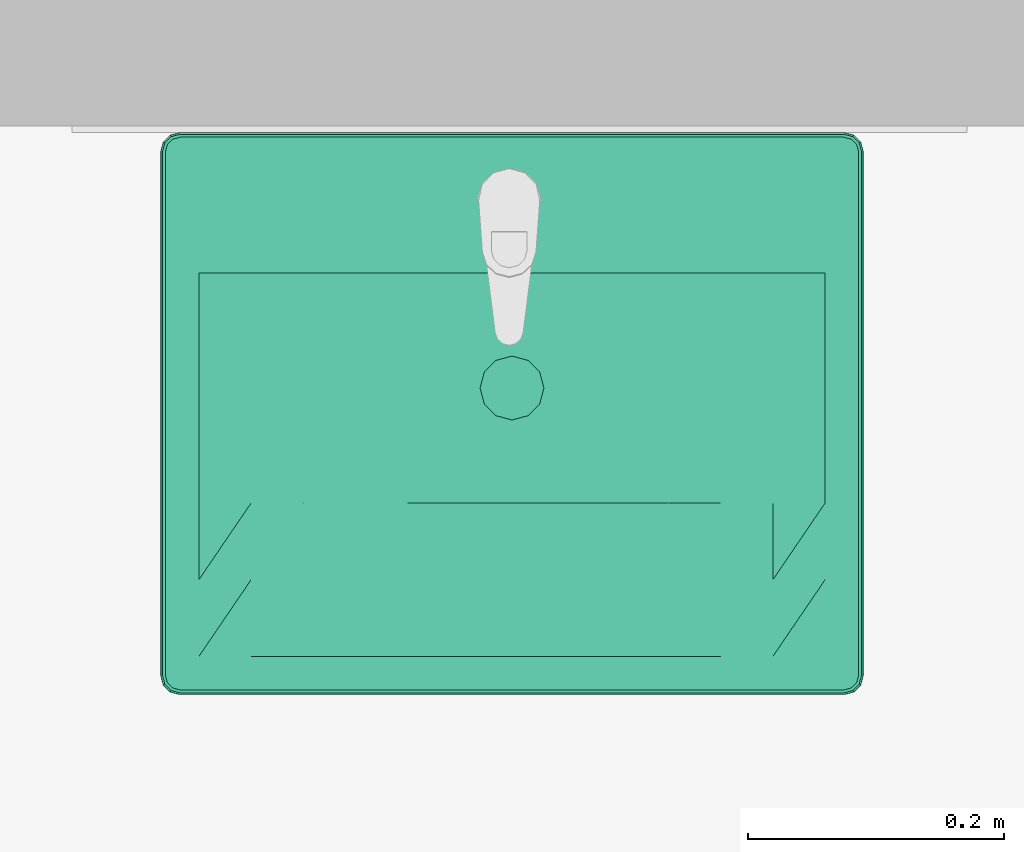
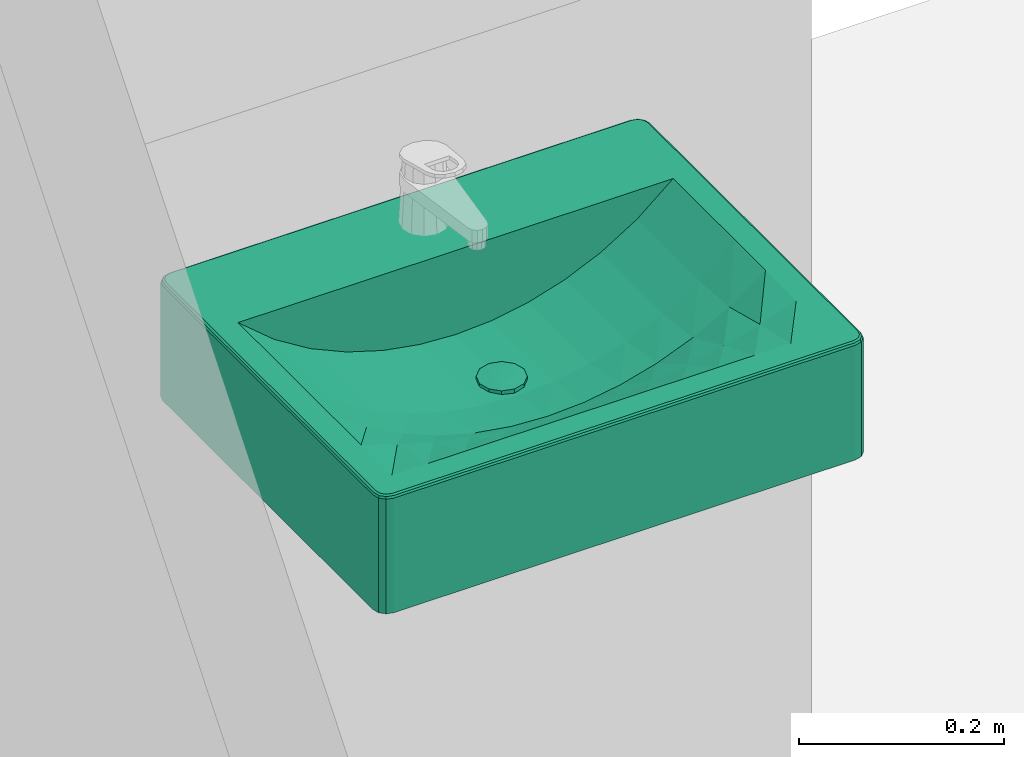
# One storey, part 85 of 127: 1 flow terminal.
"""IFC2X3 building model written with IfcOpenShell, lengths in millimetres."""

from ifc_helpers import new_model, entity, si_unit, converted_unit, derived_unit, money_unit, direction, frame, origin_with_axes, place, context, subcontext, project, spatial, open_shell, faceted_brep, surface_model, source, transform, mapped, type_object, element, save


model = new_model("IFC2X3")

# Units and contexts
model_context = context("Model", 3, precision=1e-05, world=origin_with_axes(), true_north=direction((0.0, 1.0)))
body_context = subcontext(model_context, "Body", "Model", "MODEL_VIEW")
ifc_project = project(units=[si_unit("LENGTHUNIT", "METRE", prefix="MILLI"), si_unit("AREAUNIT", "SQUARE_METRE"), si_unit("VOLUMEUNIT", "CUBIC_METRE"), converted_unit("PLANEANGLEUNIT", "DEGREE", entity("IfcPlaneAngleMeasure", 0.0174532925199), si_unit("PLANEANGLEUNIT", "RADIAN"), dimensions=[0, 0, 0, 0, 0, 0, 0]), si_unit("SOLIDANGLEUNIT", "STERADIAN"), money_unit("EUR"), converted_unit("TIMEUNIT", "Year", entity("IfcTimeMeasure", 31556926.0), si_unit("TIMEUNIT", "SECOND"), dimensions=[0, 0, 1, 0, 0, 0, 0]), si_unit("MASSUNIT", "GRAM", prefix="KILO"), si_unit("THERMODYNAMICTEMPERATUREUNIT", "DEGREE_CELSIUS"), si_unit("LUMINOUSINTENSITYUNIT", "LUMEN"), si_unit("ENERGYUNIT", "JOULE", prefix="MEGA"), derived_unit("THERMALCONDUCTANCEUNIT", [(si_unit("POWERUNIT", "WATT"), 1), (si_unit("LENGTHUNIT", "METRE"), -1), (si_unit("THERMODYNAMICTEMPERATUREUNIT", "KELVIN"), -1)]), derived_unit("SPECIFICHEATCAPACITYUNIT", [(si_unit("ENERGYUNIT", "JOULE"), 1), (si_unit("MASSUNIT", "GRAM", prefix="KILO"), -1), (si_unit("THERMODYNAMICTEMPERATUREUNIT", "KELVIN"), -1)]), derived_unit("MASSDENSITYUNIT", [(si_unit("MASSUNIT", "GRAM", prefix="KILO"), 1), (si_unit("VOLUMEUNIT", "CUBIC_METRE"), -1)])], contexts=[model_context])

# Site, building, storey
site_placement = place(None, origin_with_axes())
site = spatial("IfcSite", under=ifc_project, at=site_placement, Name="Site", CompositionType="ELEMENT")
building_placement = place(site_placement, origin_with_axes())
building = spatial("IfcBuilding", under=site, at=building_placement, Name="Building", CompositionType="ELEMENT")
storey_placement = place(building_placement, origin_with_axes())
storey = spatial("IfcBuildingStorey", under=building, at=storey_placement, Name="1 KORRUS", CompositionType="ELEMENT", Elevation=0.0)

# Flow terminal
sanitary_terminal_type = type_object("IfcSanitaryTerminalType", Name="Basin 22", PredefinedType="NOTDEFINED")
shared_shape = source(origin_with_axes(), body_context, "Body", "SurfaceModel", [
    faceted_brep([(260.0, -440.0, 860.0), (-260.0, -440.0, 860.0), (-267.5, -437.990381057, 860.0), (-272.990381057, -432.5, 860.0), (-275.0, -425.0, 860.0), (-275.0, -15.0, 860.0), (-272.990381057, -7.5, 860.0), (-267.5, -2.00961894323, 860.0), (-260.0, 0.0, 860.0), (260.0, 0.0, 860.0), (267.5, -2.00961894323, 860.0), (272.990381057, -7.5, 860.0), (275.0, -15.0, 860.0), (275.0, -425.0, 860.0), (272.990381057, -432.5, 860.0), (267.5, -437.990381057, 860.0), (-245.0, -410.0, 860.0), (245.0, -410.0, 860.0), (245.0, -110.0, 860.0), (-245.0, -110.0, 860.0), (259.999999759, -440.00000039, 995.0), (-259.999999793, -440.00000039, 995.0), (-267.500000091, -437.990381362, 995.0), (-272.990381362, -432.500000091, 995.0), (-275.00000039, -424.999999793, 995.0), (-275.00000039, -14.9999996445, 995.0), (-272.990381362, -7.50000027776, 995.0), (-267.500000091, -2.00961900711, 995.0), (-259.999999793, 2.02655670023e-08, 995.0), (259.999999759, 2.02655670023e-08, 995.0), (267.500000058, -2.00961900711, 995.0), (272.990381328, -7.50000027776, 995.0), (275.000000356, -14.9999996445, 995.0), (275.000000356, -424.999999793, 995.0), (272.990381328, -432.500000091, 995.0), (267.500000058, -437.990381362, 995.0), (-245.0, -410.0, 999.999999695), (245.0, -410.0, 999.999999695), (245.0, -110.0, 999.999999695), (-245.0, -110.0, 999.999999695), (259.977570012, -439.829629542, 996.294095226), (-259.977570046, -439.829629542, 996.294095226), (-267.411809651, -437.837631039, 996.294095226), (-272.837631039, -432.411809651, 996.294095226), (-274.829629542, -424.977570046, 996.294095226), (-274.829629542, -15.0224293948, 996.294095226), (-272.837631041, -7.58819072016, 996.294095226), (-267.411809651, -2.16236933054, 996.294095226), (-259.977570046, -0.170370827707, 996.294095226), (259.977570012, -0.170370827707, 996.294095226), (267.411809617, -2.16236933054, 996.294095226), (272.837631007, -7.58819072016, 996.294095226), (274.829629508, -15.0224293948, 996.294095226), (274.829629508, -424.977570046, 996.294095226), (272.837631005, -432.411809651, 996.294095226), (267.411809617, -437.837631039, 996.294095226), (-259.34173768, -4.99999712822, 999.999999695), (-264.911811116, -6.49249381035, 999.999999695), (-268.507506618, -10.0881893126, 999.999999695), (-270.000003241, -15.6582618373, 999.999999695), (-270.000003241, -424.34173768, 999.999999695), (-268.507506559, -429.911811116, 999.999999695), (-264.911811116, -433.507506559, 999.999999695), (-259.34173768, -435.000003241, 999.999999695), (259.341737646, -435.000003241, 999.999999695), (264.911811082, -433.507506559, 999.999999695), (268.507506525, -429.911811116, 999.999999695), (270.000003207, -424.34173768, 999.999999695), (270.000003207, -15.6582618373, 999.999999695), (268.507506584, -10.0881893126, 999.999999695), (264.911811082, -6.49249381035, 999.999999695), (259.341737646, -4.99999712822, 999.999999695), (259.807199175, -438.535534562, 998.535533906), (-259.807199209, -438.535534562, 998.535533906), (-266.741936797, -436.677377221, 998.535533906), (-271.677377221, -431.741936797, 998.535533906), (-273.535534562, -424.807199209, 998.535533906), (-273.535534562, -15.1928002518, 998.535533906), (-271.677377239, -8.2580635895, 998.535533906), (-266.741936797, -3.32262314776, 998.535533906), (-259.807199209, -1.46446580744, 998.535533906), (259.807199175, -1.46446580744, 998.535533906), (266.741936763, -3.32262314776, 998.535533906), (271.677377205, -8.2580635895, 998.535533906), (273.535534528, -15.1928002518, 998.535533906), (273.535534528, -424.807199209, 998.535533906), (271.677377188, -431.741936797, 998.535533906), (266.741936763, -436.677377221, 998.535533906), (-265.581682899, -5.33224184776, 999.829629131), (-259.512108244, -3.70590421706, 999.829629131), (-269.667758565, -9.41831751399, 999.829629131), (-271.294096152, -15.4878912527, 999.829629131), (-271.294096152, -424.512108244, 999.829629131), (-269.667758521, -430.581682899, 999.829629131), (-265.581682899, -434.667758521, 999.829629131), (-259.512108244, -436.294096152, 999.829629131), (259.51210821, -436.294096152, 999.829629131), (265.581682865, -434.667758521, 999.829629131), (269.667758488, -430.581682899, 999.829629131), (271.294096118, -424.512108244, 999.829629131), (271.294096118, -15.4878912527, 999.829629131), (269.667758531, -9.41831751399, 999.829629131), (265.581682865, -5.33224184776, 999.829629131), (259.51210821, -3.70590421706, 999.829629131)], [[[0, 1, 2, 3, 4, 5, 6, 7, 8, 9, 10, 11, 12, 13, 14, 15], [16, 17, 18, 19]], [[0, 20, 21, 1]], [[1, 21, 22, 2]], [[2, 22, 23, 3]], [[3, 23, 24, 4]], [[4, 24, 25, 5]], [[5, 25, 26, 6]], [[6, 26, 27, 7]], [[7, 27, 28, 8]], [[8, 28, 29, 9]], [[9, 29, 30, 10]], [[10, 30, 31, 11]], [[11, 31, 32, 12]], [[12, 32, 33, 13]], [[13, 33, 34, 14]], [[14, 34, 35, 15]], [[15, 35, 20, 0]], [[36, 37, 17, 16]], [[37, 38, 18, 17]], [[38, 39, 19, 18]], [[39, 36, 16, 19]], [[20, 40, 41, 21]], [[21, 41, 42, 22]], [[22, 42, 43, 23]], [[23, 43, 44, 24]], [[24, 44, 45, 25]], [[25, 45, 46, 26]], [[26, 46, 47, 27]], [[27, 47, 48, 28]], [[28, 48, 49, 29]], [[29, 49, 50, 30]], [[30, 50, 51, 31]], [[31, 51, 52, 32]], [[32, 52, 53, 33]], [[33, 53, 54, 34]], [[34, 54, 55, 35]], [[35, 55, 40, 20]], [[56, 57, 58, 59, 60, 61, 62, 63, 64, 65, 66, 67, 68, 69, 70, 71], [36, 39, 38, 37]], [[40, 72, 73, 41]], [[41, 73, 74, 42]], [[42, 74, 75, 43]], [[43, 75, 76, 44]], [[44, 76, 77, 45]], [[45, 77, 78, 46]], [[46, 78, 79, 47]], [[47, 79, 80, 48]], [[48, 80, 81, 49]], [[49, 81, 82, 50]], [[50, 82, 83, 51]], [[51, 83, 84, 52]], [[52, 84, 85, 53]], [[53, 85, 86, 54]], [[54, 86, 87, 55]], [[55, 87, 72, 40]], [[88, 57, 56, 89]], [[90, 58, 57, 88]], [[91, 59, 58, 90]], [[92, 60, 59, 91]], [[93, 61, 60, 92]], [[94, 62, 61, 93]], [[95, 63, 62, 94]], [[96, 64, 63, 95]], [[97, 65, 64, 96]], [[98, 66, 65, 97]], [[99, 67, 66, 98]], [[100, 68, 67, 99]], [[101, 69, 68, 100]], [[102, 70, 69, 101]], [[103, 71, 70, 102]], [[89, 56, 71, 103]], [[72, 96, 95, 73]], [[73, 95, 94, 74]], [[74, 94, 93, 75]], [[75, 93, 92, 76]], [[76, 92, 91, 77]], [[77, 91, 90, 78]], [[78, 90, 88, 79]], [[79, 88, 89, 80]], [[80, 89, 103, 81]], [[81, 103, 102, 82]], [[82, 102, 101, 83]], [[83, 101, 100, 84]], [[84, 100, 99, 85]], [[85, 99, 98, 86]], [[86, 98, 97, 87]], [[87, 97, 96, 72]]]),
    faceted_brep([(-245.0, -410.0, 860.0), (-245.0, -110.0, 860.0), (245.0, -110.0, 860.0), (245.0, -410.0, 860.0), (12.5, -221.641635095, 860.0), (21.6506350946, -212.491, 860.0), (25.0, -199.991, 860.0), (21.6506350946, -187.491, 860.0), (12.5, -178.340364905, 860.0), (0.0, -174.991, 860.0), (-12.5, -178.340364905, 860.0), (-21.6506350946, -187.491, 860.0), (-25.0, -199.991, 860.0), (-21.6506350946, -212.491, 860.0), (-12.5, -221.641635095, 860.0), (0.0, -224.991, 860.0), (-245.0, -290.0, 1000.0), (-245.0, -230.0, 1000.0), (-245.0, -170.0, 1000.0), (-245.0, -110.0, 1000.0), (-245.0, -410.0, 1000.0), (-245.0, -350.0, 1000.0), (122.5, -110.0, 922.129168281), (163.333333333, -110.0, 940.432026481), (204.166666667, -110.0, 965.689615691), (245.0, -110.0, 1000.0), (-204.166666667, -110.0, 965.689615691), (-163.333333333, -110.0, 940.432026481), (-122.5, -110.0, 922.129168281), (-81.6666666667, -110.0, 909.657569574), (-40.8333333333, -110.0, 902.389246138), (0.0, -110.0, 900.0), (40.8333333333, -110.0, 902.389246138), (81.6666666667, -110.0, 909.657569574), (245.0, -230.0, 1000.0), (245.0, -290.0, 1000.0), (245.0, -350.0, 1000.0), (245.0, -410.0, 1000.0), (245.0, -170.0, 1000.0), (-122.5, -410.0, 1000.0), (-163.333333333, -410.0, 1000.0), (-204.166666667, -410.0, 1000.0), (204.166666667, -410.0, 1000.0), (163.333333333, -410.0, 1000.0), (122.5, -410.0, 1000.0), (81.6666666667, -410.0, 1000.0), (40.8333333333, -410.0, 1000.0), (0.0, -410.0, 1000.0), (-40.8333333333, -410.0, 1000.0), (-81.6666666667, -410.0, 1000.0), (12.5, -221.641635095, 900.731401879), (21.6506350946, -212.491, 901.266825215), (25.0, -199.991, 901.462803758), (21.6506350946, -187.491, 901.266825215), (12.5, -178.340364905, 900.731401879), (0.0, -174.991, 900.0), (-12.5, -178.340364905, 900.731401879), (-21.6506350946, -187.491, 901.266825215), (-25.0, -199.991, 901.462803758), (-21.6506350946, -212.491, 901.266825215), (-12.5, -221.641635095, 900.731401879), (0.0, -224.991, 900.0), (-204.166666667, -230.0, 965.689615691), (-204.166666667, -170.0, 965.689615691), (-204.166666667, -350.0, 986.166287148), (-204.166666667, -290.0, 970.594758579), (163.333333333, -170.0, 940.432026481), (122.5, -170.0, 922.129168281), (204.166666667, -170.0, 965.689615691), (-163.333333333, -170.0, 940.432026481), (-122.5, -170.0, 922.129168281), (-81.6666666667, -170.0, 909.657569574), (-40.8333333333, -170.0, 902.389246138), (0.0, -170.0, 900.0), (40.8333333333, -170.0, 902.389246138), (81.6666666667, -170.0, 909.657569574), (204.166666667, -290.0, 970.594758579), (204.166666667, -350.0, 986.166287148), (204.166666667, -230.0, 965.689615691), (-122.5, -350.0, 966.539843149), (-163.333333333, -350.0, 975.056802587), (163.333333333, -350.0, 975.056802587), (122.5, -350.0, 966.539843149), (81.6666666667, -350.0, 960.520155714), (40.8333333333, -350.0, 956.933224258), (0.0, -350.0, 955.741663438), (-40.8333333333, -350.0, 956.933224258), (-81.6666666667, -350.0, 960.520155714), (0.0, -230.0, 900.0), (40.8333333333, -230.0, 902.389246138), (-40.8333333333, -230.0, 902.389246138), (-163.333333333, -230.0, 940.432026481), (163.333333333, -230.0, 940.432026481), (122.5, -230.0, 922.129168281), (-122.5, -230.0, 922.129168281), (-81.6666666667, -230.0, 909.657569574), (81.6666666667, -230.0, 909.657569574), (0.0, -290.0, 912.025576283), (-40.8333333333, -290.0, 914.19632473), (-163.333333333, -290.0, 948.375008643), (122.5, -290.0, 932.026603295), (163.333333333, -290.0, 948.375008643), (-122.5, -290.0, 932.026603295), (-81.6666666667, -290.0, 920.783680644), (40.8333333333, -290.0, 914.19632473), (81.6666666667, -290.0, 920.783680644)], [[[0, 1, 2, 3], [4, 5, 6, 7, 8, 9, 10, 11, 12, 13, 14, 15]], [[16, 17, 18, 19, 1, 0, 20, 21]], [[22, 23, 24, 25, 2, 1, 19, 26, 27, 28, 29, 30, 31, 32, 33]], [[34, 35, 36, 37, 3, 2, 25, 38]], [[39, 40, 41, 20, 0, 3, 37, 42, 43, 44, 45, 46, 47, 48, 49]], [[50, 51, 5, 4]], [[51, 52, 6, 5]], [[52, 53, 7, 6]], [[53, 54, 8, 7]], [[54, 55, 9, 8]], [[55, 56, 10, 9]], [[56, 57, 11, 10]], [[57, 58, 12, 11]], [[58, 59, 13, 12]], [[59, 60, 14, 13]], [[60, 61, 15, 14]], [[61, 50, 4, 15]], [[16, 62, 17]], [[62, 63, 18, 17]], [[63, 26, 19, 18]], [[20, 64, 21]], [[21, 65, 16]], [[66, 23, 22, 67]], [[68, 24, 23, 66]], [[38, 25, 24, 68]], [[69, 27, 26, 63]], [[70, 28, 27, 69]], [[71, 29, 28, 70]], [[72, 30, 29, 71]], [[73, 31, 30, 72]], [[74, 32, 31, 73]], [[75, 33, 32, 74]], [[67, 22, 33, 75]], [[76, 35, 34]], [[77, 36, 35]], [[42, 37, 36]], [[34, 38, 68, 78]], [[40, 39, 79]], [[41, 40, 80]], [[20, 41, 64]], [[43, 42, 77]], [[44, 43, 81]], [[45, 44, 82]], [[46, 45, 83]], [[47, 46, 84]], [[48, 47, 85]], [[49, 48, 86]], [[39, 49, 87]], [[54, 53, 52, 51, 50, 61, 88, 89, 74, 73, 55]], [[56, 55, 73, 72, 90, 88, 61, 60, 59, 58, 57]], [[16, 65, 62]], [[91, 69, 63, 62]], [[21, 64, 65]], [[92, 66, 67, 93]], [[78, 68, 66, 92]], [[94, 70, 69, 91]], [[95, 71, 70, 94]], [[90, 72, 71, 95]], [[96, 75, 74, 89]], [[93, 67, 75, 96]], [[77, 35, 76]], [[76, 34, 78]], [[42, 36, 77]], [[39, 87, 79]], [[40, 79, 80]], [[41, 80, 64]], [[43, 77, 81]], [[44, 81, 82]], [[45, 82, 83]], [[46, 83, 84]], [[47, 84, 85]], [[48, 85, 86]], [[49, 86, 87]], [[97, 89, 88]], [[98, 88, 90]], [[65, 91, 62]], [[64, 99, 65]], [[100, 92, 93]], [[101, 78, 92]], [[99, 94, 91]], [[102, 95, 94]], [[103, 90, 95]], [[104, 96, 89]], [[105, 93, 96]], [[81, 77, 76]], [[101, 76, 78]], [[79, 87, 103]], [[80, 79, 102]], [[64, 80, 99]], [[82, 81, 101]], [[83, 82, 100]], [[84, 83, 105]], [[85, 84, 104]], [[86, 85, 97]], [[87, 86, 98]], [[97, 104, 89]], [[98, 97, 88]], [[103, 98, 90]], [[65, 99, 91]], [[100, 101, 92]], [[105, 100, 93]], [[99, 102, 94]], [[102, 103, 95]], [[104, 105, 96]], [[81, 76, 101]], [[87, 98, 103]], [[79, 103, 102]], [[80, 102, 99]], [[82, 101, 100]], [[83, 100, 105]], [[84, 105, 104]], [[85, 104, 97]], [[86, 97, 98]]]),
    faceted_brep([(21.6506350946, -212.491, 900.0), (12.5, -221.641635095, 900.0), (0.0, -224.991, 900.0), (-12.5, -221.641635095, 900.0), (-21.6506350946, -212.491, 900.0), (-25.0, -199.991, 900.0), (-21.6506350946, -187.491, 900.0), (-12.5, -178.340364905, 900.0), (0.0, -174.991, 900.0), (12.5, -178.340364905, 900.0), (21.6506350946, -187.491, 900.0), (25.0, -199.991, 900.0), (21.6506350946, -212.491, 905.0), (12.5, -221.641635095, 905.0), (0.0, -224.991, 905.0), (-12.5, -221.641635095, 905.0), (-21.6506350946, -212.491, 905.0), (-25.0, -199.991, 905.0), (-21.6506350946, -187.491, 905.0), (-12.5, -178.340364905, 905.0), (0.0, -174.991, 905.0), (12.5, -178.340364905, 905.0), (21.6506350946, -187.491, 905.0), (25.0, -199.991, 905.0)], [[[0, 1, 2, 3, 4, 5, 6, 7, 8, 9, 10, 11]], [[1, 0, 12, 13]], [[2, 1, 13, 14]], [[3, 2, 14, 15]], [[4, 3, 15, 16]], [[5, 4, 16, 17]], [[6, 5, 17, 18]], [[7, 6, 18, 19]], [[8, 7, 19, 20]], [[9, 8, 20, 21]], [[10, 9, 21, 22]], [[11, 10, 22, 23]], [[0, 11, 23, 12]], [[12, 23, 22, 21, 20, 19, 18, 17, 16, 15, 14, 13]]]),
    surface_model("IfcShellBasedSurfaceModel", [(0.0, -199.991, 907.0), (0.0, -187.369094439, 906.49757372), (-6.31095278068, -189.06010914, 906.49757372), (6.31095278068, -189.06010914, 906.49757372), (0.0, -174.991, 905.0), (-12.5, -178.340364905, 905.0), (-10.9308908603, -193.680047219, 906.49757372), (10.9308908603, -193.680047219, 906.49757372), (12.5, -178.340364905, 905.0), (-21.6506350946, -187.491, 905.0), (-12.6219055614, -199.991, 906.49757372), (12.6219055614, -199.991, 906.49757372), (21.6506350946, -187.491, 905.0), (-25.0, -199.991, 905.0), (-10.9308908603, -206.301952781, 906.49757372), (10.9308908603, -206.301952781, 906.49757372), (25.0, -199.991, 905.0), (-21.6506350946, -212.491, 905.0), (-6.31095278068, -210.92189086, 906.49757372), (6.31095278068, -210.92189086, 906.49757372), (21.6506350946, -212.491, 905.0), (-12.5, -221.641635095, 905.0), (0.0, -212.612905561, 906.49757372), (12.5, -221.641635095, 905.0), (0.0, -224.991, 905.0)], [open_shell([[[0, 1, 2]], [[0, 3, 1]], [[2, 1, 4, 5]], [[0, 2, 6]], [[0, 7, 3]], [[1, 3, 8, 4]], [[6, 2, 5, 9]], [[0, 6, 10]], [[0, 11, 7]], [[3, 7, 12, 8]], [[10, 6, 9, 13]], [[0, 10, 14]], [[0, 15, 11]], [[7, 11, 16, 12]], [[14, 10, 13, 17]], [[0, 14, 18]], [[0, 19, 15]], [[11, 15, 20, 16]], [[18, 14, 17, 21]], [[0, 18, 22]], [[0, 22, 19]], [[15, 19, 23, 20]], [[22, 18, 21, 24]], [[19, 22, 24, 23]]])]),
])
flow_terminal_placement = place(storey_placement, frame((70570.2332577, 39269.0649209, 40.0), z_axis=(0.0, 0.0, 1.0), x_axis=(1.0, 0.0, 0.0)))
element("IfcFlowTerminal", 1, at=flow_terminal_placement, inside=storey, type_object=sanitary_terminal_type, Name="Valamu", context=body_context, shape_type="MappedRepresentation", body=[
    mapped(shared_shape, transform((0.0, 0.0, 0.0))),
])

save(model, "model.ifc")
